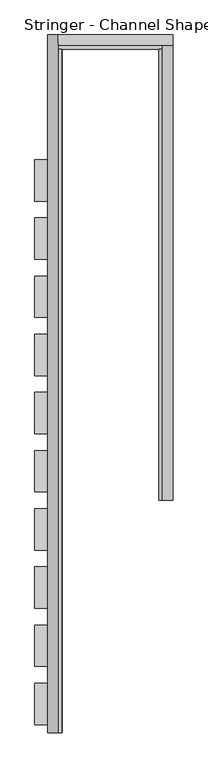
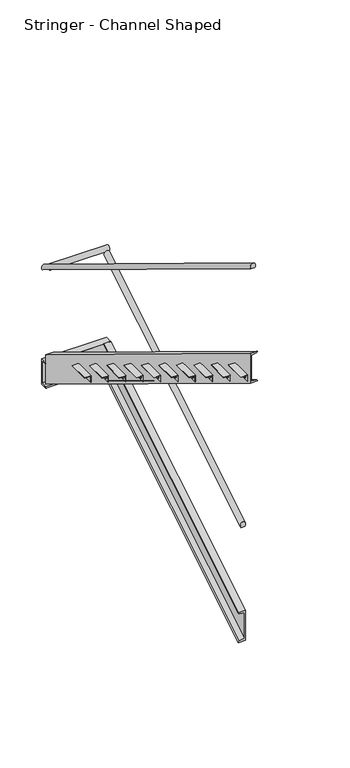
"""IFC4 building model written with IfcOpenShell, lengths in millimetres: railing geometry, Stringer - Channel Shaped."""

from ifc_helpers import new_model, si_unit, frame, origin, place, context, project, spatial, polyline, circle_curve, ellipse_curve, outline, extrude, source, transform, mapped, element, save
from ifc_brep_helpers import plane_surface, cylinder_surface, advanced_brep


def stringer_channel_shaped_c7955195(model_context):
    return source(origin(), model_context, "Body", "SolidModel", [
        advanced_brep(
        [(2106.2529487, -71.8392054, 1036.3824615), (2072.9107017, -71.8392054, 1036.3824615), (2106.2529487, 2163.3607946, 2398.7900805), (2072.9107017, 2163.3607946, 2398.7900805)],
        [
            (0, 1, ellipse_curve(frame((2089.5818252, -71.8392054, 1058.8250107), z_axis=(0.0, -1.0, 0.0), x_axis=(0.0, 0.0, -1.0)), 29.7464179, 25.4)),
            (1, 0),
            (2, 3),
            (3, 2, ellipse_curve(frame((2089.5818252, 2163.3607946, 2421.2326298), z_axis=(0.0, 1.0, 0.0), x_axis=(0.0, 0.0, -1.0)), 29.7464179, 25.4)),
            (0, 2),
            (3, 1),
        ],
        [
            plane_surface(frame((2089.5818252, -71.8392054, 1088.5714286), z_axis=(0.0, -1.0, 0.0), x_axis=(0.0, 0.0, 1.0))),
            plane_surface(frame((2089.5818252, 2163.3607946, 2450.9790476), z_axis=(0.0, 1.0, 0.0), x_axis=(0.0, 0.0, 1.0))),
            cylinder_surface(frame((2089.5818252, -58.6194495, 1066.8827667), z_axis=(0.0, -0.8538843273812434, -0.5204628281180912), x_axis=(-1.0, 0.0, 0.0)), 25.4),
            plane_surface(frame((2072.9107017, -71.8392054, 1036.3824615), z_axis=(0.0, 0.5204628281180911, -0.8538843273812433), x_axis=(0.0, 0.8538843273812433, 0.5204628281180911))),
        ],
        [
            (0, [[1, 2]]),
            (1, [[3, 4]]),
            (2, [[-1, 5, -4, 6]]),
            (3, [[-2, -6, -3, -5]]),
        ],
    ),
        advanced_brep(
        [(2114.9818252, 2205.4319181, 2437.3795161), (2114.9818252, 2172.0896711, 2437.3795161), (1549.4056157, 2205.4319181, 2437.3795161), (1549.4056157, 2172.0896711, 2437.3795161)],
        [
            (0, 1, circle_curve(frame((2114.9818252, 2188.7607946, 2456.5428571), z_axis=(1.0, 0.0, 0.0), x_axis=(0.0, -1.0, 0.0)), 25.4)),
            (1, 0),
            (2, 3),
            (3, 2, circle_curve(frame((1549.4056157, 2188.7607946, 2456.5428571), z_axis=(-1.0, 0.0, 0.0), x_axis=(0.0, -1.0, 0.0)), 25.4)),
            (0, 2),
            (3, 1),
        ],
        [
            plane_surface(frame((2114.9818252, 2188.7607946, 2481.9428571), z_axis=(1.0, 0.0, 0.0), x_axis=(0.0, -1.0, 0.0))),
            plane_surface(frame((1549.4056157, 2188.7607946, 2481.9428571), z_axis=(-1.0, 0.0, 0.0), x_axis=(0.0, -1.0, 0.0))),
            cylinder_surface(frame((2114.9818252, 2188.7607946, 2456.5428571), z_axis=(1.0, 0.0, 0.0), x_axis=(0.0, -1.0, 0.0)), 25.4),
            plane_surface(frame((2114.9818252, 2172.0896711, 2437.3795161), z_axis=(0.0, 0.0, -1.0), x_axis=(-1.0, 0.0, 0.0))),
        ],
        [
            (0, [[1, 2]]),
            (1, [[3, 4]]),
            (2, [[-1, 5, -4, 6]]),
            (3, [[-2, -6, -3, -5]]),
        ],
    ),
        advanced_brep(
        [(1507.3344922, 2214.1607946, 2429.75389), (1540.6767392, 2214.1607946, 2429.75389), (1507.3344922, -1214.8392054, 4519.8110329), (1540.6767392, -1214.8392054, 4519.8110329)],
        [
            (0, 1, ellipse_curve(frame((1524.0056157, 2214.1607946, 2452.1964393), z_axis=(0.0, 1.0, 0.0), x_axis=(0.0, 0.0, -1.0)), 29.7464179, 25.4)),
            (1, 0),
            (2, 3),
            (3, 2, ellipse_curve(frame((1524.0056157, -1214.8392054, 4542.2535821), z_axis=(0.0, -1.0, 0.0), x_axis=(0.0, 0.0, -1.0)), 29.7464179, 25.4)),
            (0, 2),
            (3, 1),
        ],
        [
            plane_surface(frame((1524.0056157, 2214.1607946, 2481.9428571), z_axis=(0.0, 1.0, 0.0), x_axis=(0.0, 0.0, -1.0))),
            plane_surface(frame((1524.0056157, -1214.8392054, 4572.0), z_axis=(0.0, -1.0, 0.0), x_axis=(0.0, 0.0, -1.0))),
            cylinder_surface(frame((1524.0056157, 2200.9410388, 2460.2541952), z_axis=(0.0, 0.8538843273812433, -0.5204628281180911), x_axis=(1.0, 0.0, 0.0)), 25.4),
            plane_surface(frame((1540.6767392, 2214.1607946, 2429.75389), z_axis=(0.0, -0.5204628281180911, -0.8538843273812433), x_axis=(0.0, -0.8538843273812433, 0.5204628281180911))),
        ],
        [
            (0, [[1, 2]]),
            (1, [[3, 4]]),
            (2, [[-1, 5, -4, 6]]),
            (3, [[-2, -6, -3, -5]]),
        ],
    ),
        advanced_brep(
        [(2114.9818252, -71.8392054, 192.2356071), (2045.4786052, -71.8392054, 192.2356071), (2056.4602252, -71.8392054, 180.1670516), (2105.4365264, -71.8392054, 170.9289313), (2105.4365264, -71.8392054, -83.0210129), (2056.4602252, -71.8392054, -92.2591332), (2045.3273972, -71.8392054, -105.2285714), (2114.9818252, -71.8392054, -105.2285714), (2114.9818252, 2144.5063666, 1543.1510034), (2114.9818252, 2144.5063666, 1245.6868248), (2045.3273972, 2144.5063666, 1245.6868248), (2056.4602252, 2144.5063666, 1258.656263), (2105.4365264, 2144.5063666, 1267.8943833), (2105.4365264, 2144.5063666, 1521.8443276), (2056.4602252, 2144.5063666, 1531.0824479), (2045.4786052, 2144.5063666, 1543.1510034)],
        [
            (0, 1),
            (1, 2, ellipse_curve(frame((2058.5997589, -71.8392054, 195.7239643), z_axis=(0.0, -1.0, 0.0), x_axis=(0.0, 0.0, -1.0)), 15.7574047, 13.4550009)),
            (2, 3),
            (3, 4),
            (4, 5),
            (5, 6, ellipse_curve(frame((2058.5997589, -71.8392054, -107.8160459), z_axis=(0.0, -1.0, 0.0), x_axis=(0.0, 0.0, -1.0)), 15.7574047, 13.4550009)),
            (6, 7),
            (7, 0),
            (8, 9),
            (9, 10),
            (10, 11, ellipse_curve(frame((2058.5997589, 2144.5063666, 1243.0993504), z_axis=(0.0, 1.0, 0.0), x_axis=(0.0, 0.0, -1.0)), 15.7574047, 13.4550009)),
            (11, 12),
            (12, 13),
            (13, 14),
            (14, 15, ellipse_curve(frame((2058.5997589, 2144.5063666, 1546.6393605), z_axis=(0.0, 1.0, 0.0), x_axis=(0.0, 0.0, -1.0)), 15.7574047, 13.4550009)),
            (15, 8),
            (0, 8),
            (15, 1),
            (14, 2),
            (13, 3),
            (12, 4),
            (11, 5),
            (10, 6),
            (9, 7),
        ],
        [
            plane_surface(frame((2114.9818252, -71.8392054, -105.2285714), z_axis=(0.0, -1.0, 0.0), x_axis=(0.0, 0.0, 1.0))),
            plane_surface(frame((2114.9818252, 2144.5063666, 1245.6868248), z_axis=(0.0, 1.0, 0.0), x_axis=(0.0, 0.0, 1.0))),
            plane_surface(frame((2114.9818252, -71.8392054, 192.2356071), z_axis=(0.0, -0.5204628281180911, 0.8538843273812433), x_axis=(0.0, 0.8538843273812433, 0.5204628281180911))),
            cylinder_surface(frame((2058.5997589, -205.5870421, 114.2014733), z_axis=(0.0, -0.8538843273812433, -0.5204628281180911), x_axis=(-1.0, 0.0, 0.0)), 13.4550009),
            plane_surface(frame((2056.4602252, -71.8392054, 180.1670516), z_axis=(-0.15901401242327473, 0.5138406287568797, -0.8430197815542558), x_axis=(0.0, 0.8538843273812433, 0.5204628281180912))),
            plane_surface(frame((2105.4365264, -71.8392054, 170.9289313), z_axis=(-1.0, 0.0, 0.0), x_axis=(0.0, 0.8538843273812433, 0.5204628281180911))),
            plane_surface(frame((2105.4365264, -71.8392054, -83.0210129), z_axis=(-0.15901401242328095, -0.5138406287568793, 0.8430197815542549), x_axis=(0.0, 0.8538843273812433, 0.5204628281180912))),
            cylinder_surface(frame((2058.5997589, -70.6892928, -107.1151468), z_axis=(0.0, -0.8538843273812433, -0.5204628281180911), x_axis=(-1.0, 0.0, 0.0)), 13.4550009),
            plane_surface(frame((2045.3273972, -71.8392054, -105.2285714), z_axis=(0.0, 0.5204628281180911, -0.8538843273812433), x_axis=(0.0, 0.8538843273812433, 0.5204628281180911))),
            plane_surface(frame((2114.9818252, -71.8392054, -105.2285714), z_axis=(1.0, 0.0, 0.0), x_axis=(0.0, 0.8538843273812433, 0.5204628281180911))),
        ],
        [
            (0, [[1, 2, 3, 4, 5, 6, 7, 8]]),
            (1, [[9, 10, 11, 12, 13, 14, 15, 16]]),
            (2, [[-1, 17, -16, 18]]),
            (3, [[-2, -18, -15, 19]]),
            (4, [[-3, -19, -14, 20]]),
            (5, [[-4, -20, -13, 21]]),
            (6, [[-5, -21, -12, 22]]),
            (7, [[-6, -22, -11, 23]]),
            (8, [[-7, -23, -10, 24]]),
            (9, [[-8, -24, -9, -17]]),
        ],
    ),
        advanced_brep(
        [(2114.9818252, 2214.1607946, 1542.1428571), (2114.9818252, 2144.6575747, 1542.1428571), (2114.9818252, 2155.6391946, 1531.8377068), (2114.9818252, 2204.6154958, 1523.9494206), (2114.9818252, 2204.6154958, 1307.1055433), (2114.9818252, 2155.6391946, 1299.2172571), (2114.9818252, 2144.5063666, 1288.1428571), (2114.9818252, 2214.1607946, 1288.1428571), (1498.6056157, 2214.1607946, 1542.1428571), (1498.6056157, 2214.1607946, 1288.1428571), (1498.6056157, 2144.5063666, 1288.1428571), (1498.6056157, 2155.6391946, 1299.2172571), (1498.6056157, 2204.6154958, 1307.1055433), (1498.6056157, 2204.6154958, 1523.9494206), (1498.6056157, 2155.6391946, 1531.8377068), (1498.6056157, 2144.6575747, 1542.1428571)],
        [
            (0, 1),
            (1, 2, circle_curve(frame((2114.9818252, 2157.7787283, 1545.1215107), z_axis=(1.0, 0.0, 0.0), x_axis=(0.0, -1.0, 0.0)), 13.4550009)),
            (2, 3),
            (3, 4),
            (4, 5),
            (5, 6, circle_curve(frame((2114.9818252, 2157.7787283, 1285.9334533), z_axis=(1.0, 0.0, 0.0), x_axis=(0.0, -1.0, 0.0)), 13.4550009)),
            (6, 7),
            (7, 0),
            (8, 9),
            (9, 10),
            (10, 11, circle_curve(frame((1498.6056157, 2157.7787283, 1285.9334533), z_axis=(-1.0, 0.0, 0.0), x_axis=(0.0, -1.0, 0.0)), 13.4550009)),
            (11, 12),
            (12, 13),
            (13, 14),
            (14, 15, circle_curve(frame((1498.6056157, 2157.7787283, 1545.1215107), z_axis=(-1.0, 0.0, 0.0), x_axis=(0.0, -1.0, 0.0)), 13.4550009)),
            (15, 8),
            (0, 8),
            (15, 1),
            (14, 2),
            (13, 3),
            (12, 4),
            (11, 5),
            (10, 6),
            (9, 7),
        ],
        [
            plane_surface(frame((2114.9818252, 2214.1607946, 1288.1428571), z_axis=(1.0, 0.0, 0.0), x_axis=(0.0, -1.0, 0.0))),
            plane_surface(frame((1498.6056157, 2214.1607946, 1288.1428571), z_axis=(-1.0, 0.0, 0.0), x_axis=(0.0, -1.0, 0.0))),
            plane_surface(frame((2114.9818252, 2214.1607946, 1542.1428571), z_axis=(0.0, 0.0, 1.0), x_axis=(-1.0, 0.0, 0.0))),
            cylinder_surface(frame((2114.9818252, 2157.7787283, 1545.1215107), z_axis=(1.0, 0.0, 0.0), x_axis=(0.0, -1.0, 0.0)), 13.4550009),
            plane_surface(frame((2114.9818252, 2155.6391946, 1531.8377068), z_axis=(0.0, -0.15901401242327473, -0.9872763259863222), x_axis=(-1.0, 0.0, 0.0))),
            plane_surface(frame((2114.9818252, 2204.6154958, 1523.9494206), z_axis=(0.0, -1.0, 0.0), x_axis=(-1.0, 0.0, 0.0))),
            plane_surface(frame((2114.9818252, 2204.6154958, 1307.1055433), z_axis=(0.0, -0.15901401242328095, 0.9872763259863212), x_axis=(-1.0, 0.0, 0.0))),
            cylinder_surface(frame((2114.9818252, 2157.7787283, 1285.9334533), z_axis=(1.0, 0.0, 0.0), x_axis=(0.0, -1.0, 0.0)), 13.4550009),
            plane_surface(frame((2114.9818252, 2144.5063666, 1288.1428571), z_axis=(0.0, 0.0, -1.0), x_axis=(-1.0, 0.0, 0.0))),
            plane_surface(frame((2114.9818252, 2214.1607946, 1288.1428571), z_axis=(0.0, 1.0, 0.0), x_axis=(-1.0, 0.0, 0.0))),
        ],
        [
            (0, [[1, 2, 3, 4, 5, 6, 7, 8]]),
            (1, [[9, 10, 11, 12, 13, 14, 15, 16]]),
            (2, [[-1, 17, -16, 18]]),
            (3, [[-2, -18, -15, 19]]),
            (4, [[-3, -19, -14, 20]]),
            (5, [[-4, -20, -13, 21]]),
            (6, [[-5, -21, -12, 22]]),
            (7, [[-6, -22, -11, 23]]),
            (8, [[-7, -23, -10, 24]]),
            (9, [[-8, -24, -9, -17]]),
        ],
    ),
        advanced_brep(
        [(1498.6056157, 2144.5063666, 1628.063068), (1568.1088356, 2144.5063666, 1628.063068), (1557.1272157, 2144.5063666, 1615.9945125), (1508.1509145, 2144.5063666, 1606.7563922), (1508.1509145, 2144.5063666, 1352.8064479), (1557.1272157, 2144.5063666, 1343.5683276), (1568.2600436, 2144.5063666, 1330.5988894), (1498.6056157, 2144.5063666, 1330.5988894), (1498.6056157, -1214.8392054, 3675.6641785), (1498.6056157, -1214.8392054, 3378.2), (1568.2600436, -1214.8392054, 3378.2), (1557.1272157, -1214.8392054, 3391.1694382), (1508.1509145, -1214.8392054, 3400.4075585), (1508.1509145, -1214.8392054, 3654.3575028), (1557.1272157, -1214.8392054, 3663.5956231), (1568.1088356, -1214.8392054, 3675.6641785)],
        [
            (0, 1),
            (1, 2, ellipse_curve(frame((1554.987682, 2144.5063666, 1631.5514251), z_axis=(0.0, 1.0, 0.0), x_axis=(0.0, 0.0, -1.0)), 15.7574047, 13.4550009)),
            (2, 3),
            (3, 4),
            (4, 5),
            (5, 6, ellipse_curve(frame((1554.987682, 2144.5063666, 1328.011415), z_axis=(0.0, 1.0, 0.0), x_axis=(0.0, 0.0, -1.0)), 15.7574047, 13.4550009)),
            (6, 7),
            (7, 0),
            (8, 9),
            (9, 10),
            (10, 11, ellipse_curve(frame((1554.987682, -1214.8392054, 3375.6125256), z_axis=(0.0, -1.0, 0.0), x_axis=(0.0, 0.0, -1.0)), 15.7574047, 13.4550009)),
            (11, 12),
            (12, 13),
            (13, 14),
            (14, 15, ellipse_curve(frame((1554.987682, -1214.8392054, 3679.1525357), z_axis=(0.0, -1.0, 0.0), x_axis=(0.0, 0.0, -1.0)), 15.7574047, 13.4550009)),
            (15, 8),
            (0, 8),
            (15, 1),
            (14, 2),
            (13, 3),
            (12, 4),
            (11, 5),
            (10, 6),
            (9, 7),
        ],
        [
            plane_surface(frame((1498.6056157, 2144.5063666, 1330.5988894), z_axis=(0.0, 1.0, 0.0), x_axis=(0.0, 0.0, -1.0))),
            plane_surface(frame((1498.6056157, -1214.8392054, 3378.2), z_axis=(0.0, -1.0, 0.0), x_axis=(0.0, 0.0, -1.0))),
            plane_surface(frame((1498.6056157, 2144.5063666, 1628.063068), z_axis=(0.0, 0.5204628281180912, 0.8538843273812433), x_axis=(0.0, -0.8538843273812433, 0.5204628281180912))),
            cylinder_surface(frame((1554.987682, 2278.2542034, 1550.0289342), z_axis=(0.0, 0.8538843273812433, -0.5204628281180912), x_axis=(1.0, 0.0, 0.0)), 13.4550009),
            plane_surface(frame((1557.1272157, 2144.5063666, 1615.9945125), z_axis=(0.1590140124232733, -0.5138406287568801, -0.8430197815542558), x_axis=(0.0, -0.8538843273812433, 0.5204628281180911))),
            plane_surface(frame((1508.1509145, 2144.5063666, 1606.7563922), z_axis=(1.0, 0.0, 0.0), x_axis=(0.0, -0.8538843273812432, 0.5204628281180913))),
            plane_surface(frame((1508.1509145, 2144.5063666, 1352.8064479), z_axis=(0.1590140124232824, 0.5138406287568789, 0.843019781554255), x_axis=(0.0, -0.8538843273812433, 0.5204628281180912))),
            cylinder_surface(frame((1554.987682, 2143.3564541, 1328.7123141), z_axis=(0.0, 0.8538843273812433, -0.5204628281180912), x_axis=(1.0, 0.0, 0.0)), 13.4550009),
            plane_surface(frame((1568.2600436, 2144.5063666, 1330.5988894), z_axis=(0.0, -0.5204628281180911, -0.8538843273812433), x_axis=(0.0, -0.8538843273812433, 0.5204628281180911))),
            plane_surface(frame((1498.6056157, 2144.5063666, 1330.5988894), z_axis=(-1.0000000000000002, 0.0, 0.0), x_axis=(0.0, -0.8538843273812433, 0.5204628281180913))),
        ],
        [
            (0, [[1, 2, 3, 4, 5, 6, 7, 8]]),
            (1, [[9, 10, 11, 12, 13, 14, 15, 16]]),
            (2, [[-1, 17, -16, 18]]),
            (3, [[-2, -18, -15, 19]]),
            (4, [[-3, -19, -14, 20]]),
            (5, [[-4, -20, -13, 21]]),
            (6, [[-5, -21, -12, 22]]),
            (7, [[-6, -22, -11, 23]]),
            (8, [[-7, -23, -10, 24]]),
            (9, [[-8, -24, -9, -17]]),
        ],
    ),
        extrude(outline(polyline([(3372.3035714, 1498.6056157), (3435.8035714, 1498.6056157), (3435.8035714, 1435.1056157), (3432.6285714, 1435.1056157), (3432.6285714, 1495.4306157), (3372.3035714, 1495.4306157), (3372.3035714, 1498.6056157)])), frame((0.0, -1173.5642054, 0.0), z_axis=(0.0, 1.0, 0.0), x_axis=(0.0, 0.0, 1.0)), (0.0, 0.0, 1.0), 203.2),
        extrude(outline(polyline([(-1013.112728, 3404.0535714), (-1007.6134667, 3413.5785714), (-996.6149441, 3413.5785714), (-991.1156827, 3404.0535714), (-996.6149441, 3394.5285714), (-1007.6134667, 3394.5285714), (-1013.112728, 3404.0535714)])), frame((1508.1306157, 0.0, 0.0), z_axis=(1.0, 0.0, 0.0), x_axis=(0.0, 1.0, 0.0)), (0.0, 0.0, 1.0), 9.525),
        extrude(outline(polyline([(-1152.812728, 3404.0535714), (-1147.3134667, 3413.5785714), (-1136.3149441, 3413.5785714), (-1130.8156827, 3404.0535714), (-1136.3149441, 3394.5285714), (-1147.3134667, 3394.5285714), (-1152.812728, 3404.0535714)])), frame((1508.1306157, 0.0, 0.0), z_axis=(1.0, 0.0, 0.0), x_axis=(0.0, 1.0, 0.0)), (0.0, 0.0, 1.0), 9.525),
        extrude(outline(polyline([(-1013.112728, 3404.0535714), (-1007.6134667, 3413.5785714), (-996.6149441, 3413.5785714), (-991.1156827, 3404.0535714), (-996.6149441, 3394.5285714), (-1007.6134667, 3394.5285714), (-1013.112728, 3404.0535714)])), frame((1485.9056157, 0.0, 0.0), z_axis=(1.0, 0.0, 0.0), x_axis=(0.0, 1.0, 0.0)), (0.0, 0.0, 1.0), 9.525),
        extrude(outline(polyline([(-1152.812728, 3404.0535714), (-1147.3134667, 3413.5785714), (-1136.3149441, 3413.5785714), (-1130.8156827, 3404.0535714), (-1136.3149441, 3394.5285714), (-1147.3134667, 3394.5285714), (-1152.812728, 3404.0535714)])), frame((1485.9056157, 0.0, 0.0), z_axis=(1.0, 0.0, 0.0), x_axis=(0.0, 1.0, 0.0)), (0.0, 0.0, 1.0), 9.525),
        extrude(outline(polyline([(1477.8541383, -1002.1142054), (1472.354877, -1011.6392054), (1461.3563543, -1011.6392054), (1455.857093, -1002.1142054), (1461.3563543, -992.5892054), (1472.354877, -992.5892054), (1477.8541383, -1002.1142054)])), frame((0.0, 0.0, 3423.1035714), z_axis=(0.0, 0.0, 1.0), x_axis=(1.0, 0.0, 0.0)), (0.0, 0.0, 1.0), 9.525),
        extrude(outline(polyline([(1477.8541383, -1141.8142054), (1472.354877, -1151.3392054), (1461.3563543, -1151.3392054), (1455.857093, -1141.8142054), (1461.3563543, -1132.2892054), (1472.354877, -1132.2892054), (1477.8541383, -1141.8142054)])), frame((0.0, 0.0, 3423.1035714), z_axis=(0.0, 0.0, 1.0), x_axis=(1.0, 0.0, 0.0)), (0.0, 0.0, 1.0), 9.525),
        extrude(outline(polyline([(3198.1321429, 1498.6056157), (3261.6321429, 1498.6056157), (3261.6321429, 1435.1056157), (3258.4571429, 1435.1056157), (3258.4571429, 1495.4306157), (3198.1321429, 1495.4306157), (3198.1321429, 1498.6056157)])), frame((0.0, -887.8142054, 0.0), z_axis=(0.0, 1.0, 0.0), x_axis=(0.0, 0.0, 1.0)), (0.0, 0.0, 1.0), 203.2),
        extrude(outline(polyline([(-727.362728, 3229.8821429), (-721.8634667, 3239.4071429), (-710.8649441, 3239.4071429), (-705.3656827, 3229.8821429), (-710.8649441, 3220.3571429), (-721.8634667, 3220.3571429), (-727.362728, 3229.8821429)])), frame((1508.1306157, 0.0, 0.0), z_axis=(1.0, 0.0, 0.0), x_axis=(0.0, 1.0, 0.0)), (0.0, 0.0, 1.0), 9.525),
        extrude(outline(polyline([(-867.062728, 3229.8821429), (-861.5634667, 3239.4071429), (-850.5649441, 3239.4071429), (-845.0656827, 3229.8821429), (-850.5649441, 3220.3571429), (-861.5634667, 3220.3571429), (-867.062728, 3229.8821429)])), frame((1508.1306157, 0.0, 0.0), z_axis=(1.0, 0.0, 0.0), x_axis=(0.0, 1.0, 0.0)), (0.0, 0.0, 1.0), 9.525),
        extrude(outline(polyline([(-727.362728, 3229.8821429), (-721.8634667, 3239.4071429), (-710.8649441, 3239.4071429), (-705.3656827, 3229.8821429), (-710.8649441, 3220.3571429), (-721.8634667, 3220.3571429), (-727.362728, 3229.8821429)])), frame((1485.9056157, 0.0, 0.0), z_axis=(1.0, 0.0, 0.0), x_axis=(0.0, 1.0, 0.0)), (0.0, 0.0, 1.0), 9.525),
        extrude(outline(polyline([(-867.062728, 3229.8821429), (-861.5634667, 3239.4071429), (-850.5649441, 3239.4071429), (-845.0656827, 3229.8821429), (-850.5649441, 3220.3571429), (-861.5634667, 3220.3571429), (-867.062728, 3229.8821429)])), frame((1485.9056157, 0.0, 0.0), z_axis=(1.0, 0.0, 0.0), x_axis=(0.0, 1.0, 0.0)), (0.0, 0.0, 1.0), 9.525),
        extrude(outline(polyline([(1477.8541383, -716.3642054), (1472.354877, -725.8892054), (1461.3563543, -725.8892054), (1455.857093, -716.3642054), (1461.3563543, -706.8392054), (1472.354877, -706.8392054), (1477.8541383, -716.3642054)])), frame((0.0, 0.0, 3248.9321429), z_axis=(0.0, 0.0, 1.0), x_axis=(1.0, 0.0, 0.0)), (0.0, 0.0, 1.0), 9.525),
        extrude(outline(polyline([(1477.8541383, -856.0642054), (1472.354877, -865.5892054), (1461.3563543, -865.5892054), (1455.857093, -856.0642054), (1461.3563543, -846.5392054), (1472.354877, -846.5392054), (1477.8541383, -856.0642054)])), frame((0.0, 0.0, 3248.9321429), z_axis=(0.0, 0.0, 1.0), x_axis=(1.0, 0.0, 0.0)), (0.0, 0.0, 1.0), 9.525),
        extrude(outline(polyline([(3023.9607143, 1498.6056157), (3087.4607143, 1498.6056157), (3087.4607143, 1435.1056157), (3084.2857143, 1435.1056157), (3084.2857143, 1495.4306157), (3023.9607143, 1495.4306157), (3023.9607143, 1498.6056157)])), frame((0.0, -602.0642054, 0.0), z_axis=(0.0, 1.0, 0.0), x_axis=(0.0, 0.0, 1.0)), (0.0, 0.0, 1.0), 203.2),
        extrude(outline(polyline([(-441.612728, 3055.7107143), (-436.1134667, 3065.2357143), (-425.1149441, 3065.2357143), (-419.6156827, 3055.7107143), (-425.1149441, 3046.1857143), (-436.1134667, 3046.1857143), (-441.612728, 3055.7107143)])), frame((1508.1306157, 0.0, 0.0), z_axis=(1.0, 0.0, 0.0), x_axis=(0.0, 1.0, 0.0)), (0.0, 0.0, 1.0), 9.525),
        extrude(outline(polyline([(-581.312728, 3055.7107143), (-575.8134667, 3065.2357143), (-564.8149441, 3065.2357143), (-559.3156827, 3055.7107143), (-564.8149441, 3046.1857143), (-575.8134667, 3046.1857143), (-581.312728, 3055.7107143)])), frame((1508.1306157, 0.0, 0.0), z_axis=(1.0, 0.0, 0.0), x_axis=(0.0, 1.0, 0.0)), (0.0, 0.0, 1.0), 9.525),
        extrude(outline(polyline([(-441.612728, 3055.7107143), (-436.1134667, 3065.2357143), (-425.1149441, 3065.2357143), (-419.6156827, 3055.7107143), (-425.1149441, 3046.1857143), (-436.1134667, 3046.1857143), (-441.612728, 3055.7107143)])), frame((1485.9056157, 0.0, 0.0), z_axis=(1.0, 0.0, 0.0), x_axis=(0.0, 1.0, 0.0)), (0.0, 0.0, 1.0), 9.525),
        extrude(outline(polyline([(-581.312728, 3055.7107143), (-575.8134667, 3065.2357143), (-564.8149441, 3065.2357143), (-559.3156827, 3055.7107143), (-564.8149441, 3046.1857143), (-575.8134667, 3046.1857143), (-581.312728, 3055.7107143)])), frame((1485.9056157, 0.0, 0.0), z_axis=(1.0, 0.0, 0.0), x_axis=(0.0, 1.0, 0.0)), (0.0, 0.0, 1.0), 9.525),
        extrude(outline(polyline([(1477.8541383, -430.6142054), (1472.354877, -440.1392054), (1461.3563543, -440.1392054), (1455.857093, -430.6142054), (1461.3563543, -421.0892054), (1472.354877, -421.0892054), (1477.8541383, -430.6142054)])), frame((0.0, 0.0, 3074.7607143), z_axis=(0.0, 0.0, 1.0), x_axis=(1.0, 0.0, 0.0)), (0.0, 0.0, 1.0), 9.525),
        extrude(outline(polyline([(1477.8541383, -570.3142054), (1472.354877, -579.8392054), (1461.3563543, -579.8392054), (1455.857093, -570.3142054), (1461.3563543, -560.7892054), (1472.354877, -560.7892054), (1477.8541383, -570.3142054)])), frame((0.0, 0.0, 3074.7607143), z_axis=(0.0, 0.0, 1.0), x_axis=(1.0, 0.0, 0.0)), (0.0, 0.0, 1.0), 9.525),
        extrude(outline(polyline([(2849.7892857, 1498.6056157), (2913.2892857, 1498.6056157), (2913.2892857, 1435.1056157), (2910.1142857, 1435.1056157), (2910.1142857, 1495.4306157), (2849.7892857, 1495.4306157), (2849.7892857, 1498.6056157)])), frame((0.0, -316.3142054, 0.0), z_axis=(0.0, 1.0, 0.0), x_axis=(0.0, 0.0, 1.0)), (0.0, 0.0, 1.0), 203.2),
        extrude(outline(polyline([(-155.862728, 2881.5392857), (-150.3634667, 2891.0642857), (-139.3649441, 2891.0642857), (-133.8656827, 2881.5392857), (-139.3649441, 2872.0142857), (-150.3634667, 2872.0142857), (-155.862728, 2881.5392857)])), frame((1508.1306157, 0.0, 0.0), z_axis=(1.0, 0.0, 0.0), x_axis=(0.0, 1.0, 0.0)), (0.0, 0.0, 1.0), 9.525),
        extrude(outline(polyline([(-295.562728, 2881.5392857), (-290.0634667, 2891.0642857), (-279.0649441, 2891.0642857), (-273.5656827, 2881.5392857), (-279.0649441, 2872.0142857), (-290.0634667, 2872.0142857), (-295.562728, 2881.5392857)])), frame((1508.1306157, 0.0, 0.0), z_axis=(1.0, 0.0, 0.0), x_axis=(0.0, 1.0, 0.0)), (0.0, 0.0, 1.0), 9.525),
        extrude(outline(polyline([(-155.862728, 2881.5392857), (-150.3634667, 2891.0642857), (-139.3649441, 2891.0642857), (-133.8656827, 2881.5392857), (-139.3649441, 2872.0142857), (-150.3634667, 2872.0142857), (-155.862728, 2881.5392857)])), frame((1485.9056157, 0.0, 0.0), z_axis=(1.0, 0.0, 0.0), x_axis=(0.0, 1.0, 0.0)), (0.0, 0.0, 1.0), 9.525),
        extrude(outline(polyline([(-295.562728, 2881.5392857), (-290.0634667, 2891.0642857), (-279.0649441, 2891.0642857), (-273.5656827, 2881.5392857), (-279.0649441, 2872.0142857), (-290.0634667, 2872.0142857), (-295.562728, 2881.5392857)])), frame((1485.9056157, 0.0, 0.0), z_axis=(1.0, 0.0, 0.0), x_axis=(0.0, 1.0, 0.0)), (0.0, 0.0, 1.0), 9.525),
        extrude(outline(polyline([(1477.8541383, -144.8642054), (1472.354877, -154.3892054), (1461.3563543, -154.3892054), (1455.857093, -144.8642054), (1461.3563543, -135.3392054), (1472.354877, -135.3392054), (1477.8541383, -144.8642054)])), frame((0.0, 0.0, 2900.5892857), z_axis=(0.0, 0.0, 1.0), x_axis=(1.0, 0.0, 0.0)), (0.0, 0.0, 1.0), 9.525),
        extrude(outline(polyline([(1477.8541383, -284.5642054), (1472.354877, -294.0892054), (1461.3563543, -294.0892054), (1455.857093, -284.5642054), (1461.3563543, -275.0392054), (1472.354877, -275.0392054), (1477.8541383, -284.5642054)])), frame((0.0, 0.0, 2900.5892857), z_axis=(0.0, 0.0, 1.0), x_axis=(1.0, 0.0, 0.0)), (0.0, 0.0, 1.0), 9.525),
        extrude(outline(polyline([(2675.6178571, 1498.6056157), (2739.1178571, 1498.6056157), (2739.1178571, 1435.1056157), (2735.9428571, 1435.1056157), (2735.9428571, 1495.4306157), (2675.6178571, 1495.4306157), (2675.6178571, 1498.6056157)])), frame((0.0, -30.5642054, 0.0), z_axis=(0.0, 1.0, 0.0), x_axis=(0.0, 0.0, 1.0)), (0.0, 0.0, 1.0), 203.2),
        extrude(outline(polyline([(129.887272, 2707.3678571), (135.3865333, 2716.8928571), (146.3850559, 2716.8928571), (151.8843173, 2707.3678571), (146.3850559, 2697.8428571), (135.3865333, 2697.8428571), (129.887272, 2707.3678571)])), frame((1508.1306157, 0.0, 0.0), z_axis=(1.0, 0.0, 0.0), x_axis=(0.0, 1.0, 0.0)), (0.0, 0.0, 1.0), 9.525),
        extrude(outline(polyline([(-9.812728, 2707.3678571), (-4.3134667, 2716.8928571), (6.6850559, 2716.8928571), (12.1843173, 2707.3678571), (6.6850559, 2697.8428571), (-4.3134667, 2697.8428571), (-9.812728, 2707.3678571)])), frame((1508.1306157, 0.0, 0.0), z_axis=(1.0, 0.0, 0.0), x_axis=(0.0, 1.0, 0.0)), (0.0, 0.0, 1.0), 9.525),
        extrude(outline(polyline([(129.887272, 2707.3678571), (135.3865333, 2716.8928571), (146.3850559, 2716.8928571), (151.8843173, 2707.3678571), (146.3850559, 2697.8428571), (135.3865333, 2697.8428571), (129.887272, 2707.3678571)])), frame((1485.9056157, 0.0, 0.0), z_axis=(1.0, 0.0, 0.0), x_axis=(0.0, 1.0, 0.0)), (0.0, 0.0, 1.0), 9.525),
        extrude(outline(polyline([(-9.812728, 2707.3678571), (-4.3134667, 2716.8928571), (6.6850559, 2716.8928571), (12.1843173, 2707.3678571), (6.6850559, 2697.8428571), (-4.3134667, 2697.8428571), (-9.812728, 2707.3678571)])), frame((1485.9056157, 0.0, 0.0), z_axis=(1.0, 0.0, 0.0), x_axis=(0.0, 1.0, 0.0)), (0.0, 0.0, 1.0), 9.525),
        extrude(outline(polyline([(1477.8541383, 140.8857946), (1472.354877, 131.3607946), (1461.3563543, 131.3607946), (1455.857093, 140.8857946), (1461.3563543, 150.4107946), (1472.354877, 150.4107946), (1477.8541383, 140.8857946)])), frame((0.0, 0.0, 2726.4178571), z_axis=(0.0, 0.0, 1.0), x_axis=(1.0, 0.0, 0.0)), (0.0, 0.0, 1.0), 9.525),
        extrude(outline(polyline([(1477.8541383, 1.1857946), (1472.354877, -8.3392054), (1461.3563543, -8.3392054), (1455.857093, 1.1857946), (1461.3563543, 10.7107946), (1472.354877, 10.7107946), (1477.8541383, 1.1857946)])), frame((0.0, 0.0, 2726.4178571), z_axis=(0.0, 0.0, 1.0), x_axis=(1.0, 0.0, 0.0)), (0.0, 0.0, 1.0), 9.525),
        extrude(outline(polyline([(2501.4464286, 1498.6056157), (2564.9464286, 1498.6056157), (2564.9464286, 1435.1056157), (2561.7714286, 1435.1056157), (2561.7714286, 1495.4306157), (2501.4464286, 1495.4306157), (2501.4464286, 1498.6056157)])), frame((0.0, 255.1857946, 0.0), z_axis=(0.0, 1.0, 0.0), x_axis=(0.0, 0.0, 1.0)), (0.0, 0.0, 1.0), 203.2),
        extrude(outline(polyline([(415.637272, 2533.1964286), (421.1365333, 2542.7214286), (432.1350559, 2542.7214286), (437.6343173, 2533.1964286), (432.1350559, 2523.6714286), (421.1365333, 2523.6714286), (415.637272, 2533.1964286)])), frame((1508.1306157, 0.0, 0.0), z_axis=(1.0, 0.0, 0.0), x_axis=(0.0, 1.0, 0.0)), (0.0, 0.0, 1.0), 9.525),
        extrude(outline(polyline([(275.937272, 2533.1964286), (281.4365333, 2542.7214286), (292.4350559, 2542.7214286), (297.9343173, 2533.1964286), (292.4350559, 2523.6714286), (281.4365333, 2523.6714286), (275.937272, 2533.1964286)])), frame((1508.1306157, 0.0, 0.0), z_axis=(1.0, 0.0, 0.0), x_axis=(0.0, 1.0, 0.0)), (0.0, 0.0, 1.0), 9.525),
        extrude(outline(polyline([(415.637272, 2533.1964286), (421.1365333, 2542.7214286), (432.1350559, 2542.7214286), (437.6343173, 2533.1964286), (432.1350559, 2523.6714286), (421.1365333, 2523.6714286), (415.637272, 2533.1964286)])), frame((1485.9056157, 0.0, 0.0), z_axis=(1.0, 0.0, 0.0), x_axis=(0.0, 1.0, 0.0)), (0.0, 0.0, 1.0), 9.525),
        extrude(outline(polyline([(275.937272, 2533.1964286), (281.4365333, 2542.7214286), (292.4350559, 2542.7214286), (297.9343173, 2533.1964286), (292.4350559, 2523.6714286), (281.4365333, 2523.6714286), (275.937272, 2533.1964286)])), frame((1485.9056157, 0.0, 0.0), z_axis=(1.0, 0.0, 0.0), x_axis=(0.0, 1.0, 0.0)), (0.0, 0.0, 1.0), 9.525),
        extrude(outline(polyline([(1477.8541383, 426.6357946), (1472.354877, 417.1107946), (1461.3563543, 417.1107946), (1455.857093, 426.6357946), (1461.3563543, 436.1607946), (1472.354877, 436.1607946), (1477.8541383, 426.6357946)])), frame((0.0, 0.0, 2552.2464286), z_axis=(0.0, 0.0, 1.0), x_axis=(1.0, 0.0, 0.0)), (0.0, 0.0, 1.0), 9.525),
        extrude(outline(polyline([(1477.8541383, 286.9357946), (1472.354877, 277.4107946), (1461.3563543, 277.4107946), (1455.857093, 286.9357946), (1461.3563543, 296.4607946), (1472.354877, 296.4607946), (1477.8541383, 286.9357946)])), frame((0.0, 0.0, 2552.2464286), z_axis=(0.0, 0.0, 1.0), x_axis=(1.0, 0.0, 0.0)), (0.0, 0.0, 1.0), 9.525),
        extrude(outline(polyline([(2327.275, 1498.6056157), (2390.775, 1498.6056157), (2390.775, 1435.1056157), (2387.6, 1435.1056157), (2387.6, 1495.4306157), (2327.275, 1495.4306157), (2327.275, 1498.6056157)])), frame((0.0, 540.9357946, 0.0), z_axis=(0.0, 1.0, 0.0), x_axis=(0.0, 0.0, 1.0)), (0.0, 0.0, 1.0), 203.2),
        extrude(outline(polyline([(701.387272, 2359.025), (706.8865333, 2368.55), (717.8850559, 2368.55), (723.3843173, 2359.025), (717.8850559, 2349.5), (706.8865333, 2349.5), (701.387272, 2359.025)])), frame((1508.1306157, 0.0, 0.0), z_axis=(1.0, 0.0, 0.0), x_axis=(0.0, 1.0, 0.0)), (0.0, 0.0, 1.0), 9.525),
        extrude(outline(polyline([(561.687272, 2359.025), (567.1865333, 2368.55), (578.1850559, 2368.55), (583.6843173, 2359.025), (578.1850559, 2349.5), (567.1865333, 2349.5), (561.687272, 2359.025)])), frame((1508.1306157, 0.0, 0.0), z_axis=(1.0, 0.0, 0.0), x_axis=(0.0, 1.0, 0.0)), (0.0, 0.0, 1.0), 9.525),
        extrude(outline(polyline([(701.387272, 2359.025), (706.8865333, 2368.55), (717.8850559, 2368.55), (723.3843173, 2359.025), (717.8850559, 2349.5), (706.8865333, 2349.5), (701.387272, 2359.025)])), frame((1485.9056157, 0.0, 0.0), z_axis=(1.0, 0.0, 0.0), x_axis=(0.0, 1.0, 0.0)), (0.0, 0.0, 1.0), 9.525),
        extrude(outline(polyline([(561.687272, 2359.025), (567.1865333, 2368.55), (578.1850559, 2368.55), (583.6843173, 2359.025), (578.1850559, 2349.5), (567.1865333, 2349.5), (561.687272, 2359.025)])), frame((1485.9056157, 0.0, 0.0), z_axis=(1.0, 0.0, 0.0), x_axis=(0.0, 1.0, 0.0)), (0.0, 0.0, 1.0), 9.525),
        extrude(outline(polyline([(1477.8541383, 712.3857946), (1472.354877, 702.8607946), (1461.3563543, 702.8607946), (1455.857093, 712.3857946), (1461.3563543, 721.9107946), (1472.354877, 721.9107946), (1477.8541383, 712.3857946)])), frame((0.0, 0.0, 2378.075), z_axis=(0.0, 0.0, 1.0), x_axis=(1.0, 0.0, 0.0)), (0.0, 0.0, 1.0), 9.525),
        extrude(outline(polyline([(1477.8541383, 572.6857946), (1472.354877, 563.1607946), (1461.3563543, 563.1607946), (1455.857093, 572.6857946), (1461.3563543, 582.2107946), (1472.354877, 582.2107946), (1477.8541383, 572.6857946)])), frame((0.0, 0.0, 2378.075), z_axis=(0.0, 0.0, 1.0), x_axis=(1.0, 0.0, 0.0)), (0.0, 0.0, 1.0), 9.525),
        extrude(outline(polyline([(2153.1035714, 1498.6056157), (2216.6035714, 1498.6056157), (2216.6035714, 1435.1056157), (2213.4285714, 1435.1056157), (2213.4285714, 1495.4306157), (2153.1035714, 1495.4306157), (2153.1035714, 1498.6056157)])), frame((0.0, 826.6857946, 0.0), z_axis=(0.0, 1.0, 0.0), x_axis=(0.0, 0.0, 1.0)), (0.0, 0.0, 1.0), 203.2),
        extrude(outline(polyline([(987.137272, 2184.8535714), (992.6365333, 2194.3785714), (1003.6350559, 2194.3785714), (1009.1343173, 2184.8535714), (1003.6350559, 2175.3285714), (992.6365333, 2175.3285714), (987.137272, 2184.8535714)])), frame((1508.1306157, 0.0, 0.0), z_axis=(1.0, 0.0, 0.0), x_axis=(0.0, 1.0, 0.0)), (0.0, 0.0, 1.0), 9.525),
        extrude(outline(polyline([(847.437272, 2184.8535714), (852.9365333, 2194.3785714), (863.9350559, 2194.3785714), (869.4343173, 2184.8535714), (863.9350559, 2175.3285714), (852.9365333, 2175.3285714), (847.437272, 2184.8535714)])), frame((1508.1306157, 0.0, 0.0), z_axis=(1.0, 0.0, 0.0), x_axis=(0.0, 1.0, 0.0)), (0.0, 0.0, 1.0), 9.525),
        extrude(outline(polyline([(987.137272, 2184.8535714), (992.6365333, 2194.3785714), (1003.6350559, 2194.3785714), (1009.1343173, 2184.8535714), (1003.6350559, 2175.3285714), (992.6365333, 2175.3285714), (987.137272, 2184.8535714)])), frame((1485.9056157, 0.0, 0.0), z_axis=(1.0, 0.0, 0.0), x_axis=(0.0, 1.0, 0.0)), (0.0, 0.0, 1.0), 9.525),
        extrude(outline(polyline([(847.437272, 2184.8535714), (852.9365333, 2194.3785714), (863.9350559, 2194.3785714), (869.4343173, 2184.8535714), (863.9350559, 2175.3285714), (852.9365333, 2175.3285714), (847.437272, 2184.8535714)])), frame((1485.9056157, 0.0, 0.0), z_axis=(1.0, 0.0, 0.0), x_axis=(0.0, 1.0, 0.0)), (0.0, 0.0, 1.0), 9.525),
        extrude(outline(polyline([(1477.8541383, 998.1357946), (1472.354877, 988.6107946), (1461.3563543, 988.6107946), (1455.857093, 998.1357946), (1461.3563543, 1007.6607946), (1472.354877, 1007.6607946), (1477.8541383, 998.1357946)])), frame((0.0, 0.0, 2203.9035714), z_axis=(0.0, 0.0, 1.0), x_axis=(1.0, 0.0, 0.0)), (0.0, 0.0, 1.0), 9.525),
        extrude(outline(polyline([(1477.8541383, 858.4357946), (1472.354877, 848.9107946), (1461.3563543, 848.9107946), (1455.857093, 858.4357946), (1461.3563543, 867.9607946), (1472.354877, 867.9607946), (1477.8541383, 858.4357946)])), frame((0.0, 0.0, 2203.9035714), z_axis=(0.0, 0.0, 1.0), x_axis=(1.0, 0.0, 0.0)), (0.0, 0.0, 1.0), 9.525),
        extrude(outline(polyline([(1978.9321429, 1498.6056157), (2042.4321429, 1498.6056157), (2042.4321429, 1435.1056157), (2039.2571429, 1435.1056157), (2039.2571429, 1495.4306157), (1978.9321429, 1495.4306157), (1978.9321429, 1498.6056157)])), frame((0.0, 1112.4357946, 0.0), z_axis=(0.0, 1.0, 0.0), x_axis=(0.0, 0.0, 1.0)), (0.0, 0.0, 1.0), 203.2),
        extrude(outline(polyline([(1272.887272, 2010.6821429), (1278.3865333, 2020.2071429), (1289.3850559, 2020.2071429), (1294.8843173, 2010.6821429), (1289.3850559, 2001.1571429), (1278.3865333, 2001.1571429), (1272.887272, 2010.6821429)])), frame((1508.1306157, 0.0, 0.0), z_axis=(1.0, 0.0, 0.0), x_axis=(0.0, 1.0, 0.0)), (0.0, 0.0, 1.0), 9.525),
        extrude(outline(polyline([(1133.187272, 2010.6821429), (1138.6865333, 2020.2071429), (1149.6850559, 2020.2071429), (1155.1843173, 2010.6821429), (1149.6850559, 2001.1571429), (1138.6865333, 2001.1571429), (1133.187272, 2010.6821429)])), frame((1508.1306157, 0.0, 0.0), z_axis=(1.0, 0.0, 0.0), x_axis=(0.0, 1.0, 0.0)), (0.0, 0.0, 1.0), 9.525),
        extrude(outline(polyline([(1272.887272, 2010.6821429), (1278.3865333, 2020.2071429), (1289.3850559, 2020.2071429), (1294.8843173, 2010.6821429), (1289.3850559, 2001.1571429), (1278.3865333, 2001.1571429), (1272.887272, 2010.6821429)])), frame((1485.9056157, 0.0, 0.0), z_axis=(1.0, 0.0, 0.0), x_axis=(0.0, 1.0, 0.0)), (0.0, 0.0, 1.0), 9.525),
        extrude(outline(polyline([(1133.187272, 2010.6821429), (1138.6865333, 2020.2071429), (1149.6850559, 2020.2071429), (1155.1843173, 2010.6821429), (1149.6850559, 2001.1571429), (1138.6865333, 2001.1571429), (1133.187272, 2010.6821429)])), frame((1485.9056157, 0.0, 0.0), z_axis=(1.0, 0.0, 0.0), x_axis=(0.0, 1.0, 0.0)), (0.0, 0.0, 1.0), 9.525),
        extrude(outline(polyline([(1477.8541383, 1283.8857946), (1472.354877, 1274.3607946), (1461.3563543, 1274.3607946), (1455.857093, 1283.8857946), (1461.3563543, 1293.4107946), (1472.354877, 1293.4107946), (1477.8541383, 1283.8857946)])), frame((0.0, 0.0, 2029.7321429), z_axis=(0.0, 0.0, 1.0), x_axis=(1.0, 0.0, 0.0)), (0.0, 0.0, 1.0), 9.525),
        extrude(outline(polyline([(1477.8541383, 1144.1857946), (1472.354877, 1134.6607946), (1461.3563543, 1134.6607946), (1455.857093, 1144.1857946), (1461.3563543, 1153.7107946), (1472.354877, 1153.7107946), (1477.8541383, 1144.1857946)])), frame((0.0, 0.0, 2029.7321429), z_axis=(0.0, 0.0, 1.0), x_axis=(1.0, 0.0, 0.0)), (0.0, 0.0, 1.0), 9.525),
        extrude(outline(polyline([(1804.7607143, 1498.6056157), (1868.2607143, 1498.6056157), (1868.2607143, 1435.1056157), (1865.0857143, 1435.1056157), (1865.0857143, 1495.4306157), (1804.7607143, 1495.4306157), (1804.7607143, 1498.6056157)])), frame((0.0, 1398.1857946, 0.0), z_axis=(0.0, 1.0, 0.0), x_axis=(0.0, 0.0, 1.0)), (0.0, 0.0, 1.0), 203.2),
    ])


if __name__ == "__main__":
    model = new_model("IFC4")
    model_context = context("Model", 3, world=origin())
    ifc_project = project(units=[si_unit("LENGTHUNIT", "METRE", prefix="MILLI")], contexts=[model_context])
    site = spatial("IfcSite", under=ifc_project)
    building = spatial("IfcBuilding", under=site)
    placement = place(None, origin())
    stringer_channel_shaped_shape = stringer_channel_shaped_c7955195(model_context)
    element("IfcRailing", 1, ObjectType="Stringer - Channel Shaped", at=placement, inside=building, context=model_context, shape_type="MappedRepresentation", body=[
        mapped(stringer_channel_shaped_shape, transform((0.0, 0.0, 0.0), x_axis=(1.0, 0.0, 0.0), y_axis=(0.0, 1.0, 0.0), z_axis=(0.0, 0.0, 1.0))),
    ])
    save(model, "model.ifc")
